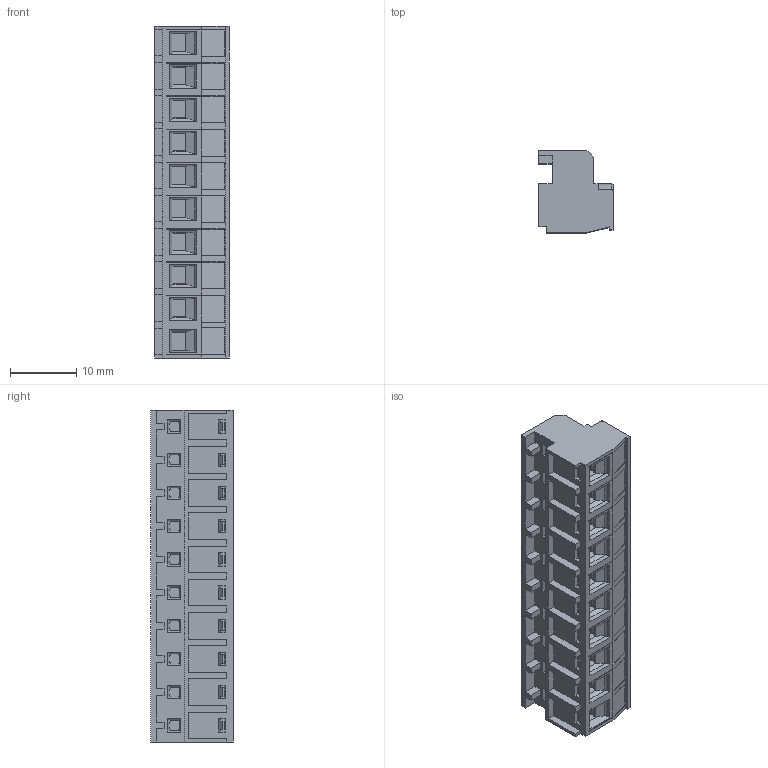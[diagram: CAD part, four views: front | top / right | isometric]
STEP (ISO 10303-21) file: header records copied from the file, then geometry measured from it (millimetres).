
FILE_DESCRIPTION (( 'STEP AP214' ), '1' );
FILE_NAME ('115-F-111-10.STEP', '2008-01-04T06:56:54', ( ' ' ), ( '' ), 'SwSTEP 2.0', 'SolidWorks 2007', '' );
FILE_SCHEMA (( 'AUTOMOTIVE_DESIGN' ));
Length unit declared in the file: millimetre
Products named in the file (1): 115-F-111-10
Bounding box: 11.2 x 12.4 x 50 mm (x, y, z)
Volume: 4763.1 mm3; surface area: 5174.7 mm2
Topology: 1 solids, 1 shells, 1786 faces, 4823 edges, 3081 vertices
Faces by surface type: plane 1460, cylinder 201, cone 65, bspline 60
Entity records: 58451 total; most frequent: CARTESIAN_POINT 14594, ORIENTED_EDGE 9534, DIRECTION 8359, EDGE_CURVE 4767, LINE 3931, VECTOR 3931, VERTEX_POINT 3053, AXIS2_PLACEMENT_3D 2214
